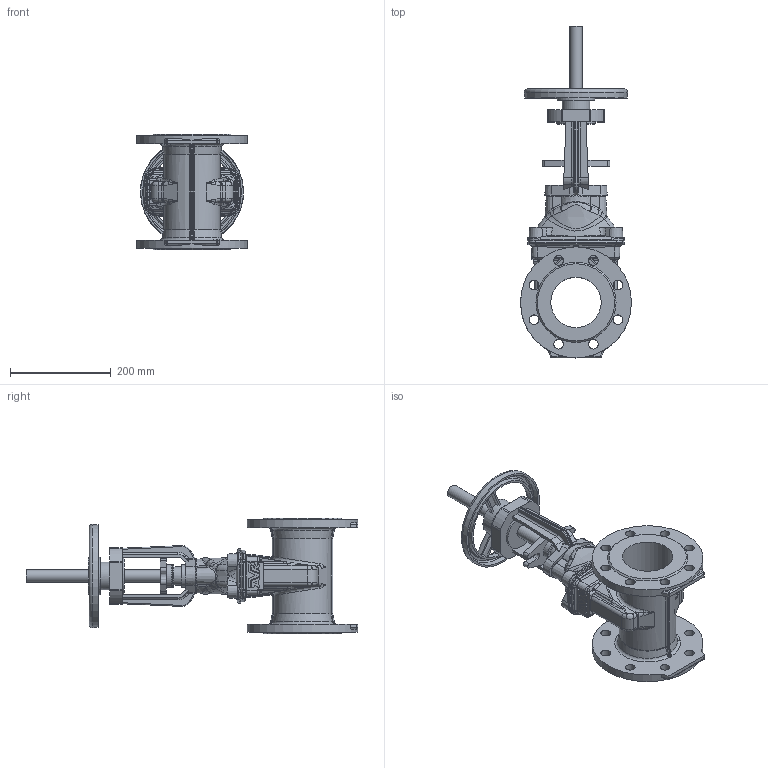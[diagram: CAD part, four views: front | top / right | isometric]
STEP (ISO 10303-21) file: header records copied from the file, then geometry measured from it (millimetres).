
FILE_DESCRIPTION (( 'STEP AP203' ), '1' );
FILE_NAME ('O_21_34_DN100_41XXXXX open_AA0.step', '2020-02-12T09:06:18', ( 'Windows User' ), ( 'AVK' ), 'SwSTEP 2.0', 'SolidWorks 2012', '' );
FILE_SCHEMA (( 'CONFIG_CONTROL_DESIGN' ));
Products named in the file (1): O_21_34_DN100_41XXXXX open_AA0
Bounding box: 220 x 658.37 x 229 mm (x, y, z)
Volume: 4362345.6 mm3; surface area: 563875.8 mm2
Topology: 1 solids, 1 shells, 871 faces, 2212 edges, 1338 vertices
Faces by surface type: bspline 300, cylinder 240, plane 193, cone 65, torus 65, sphere 8
Full cylindrical faces by diameter (mm): 19 x16, 25 x2, 36.9 x1, 44 x1, 45 x1, 47 x1, 55 x1, 74 x1, 100 x1, 220 x2
Entity records: 35902 total; most frequent: CARTESIAN_POINT 17583, ORIENTED_EDGE 4256, DIRECTION 3270, EDGE_CURVE 2128, AXIS2_PLACEMENT_3D 1316, VERTEX_POINT 1312, EDGE_LOOP 968, FACE_OUTER_BOUND 902
